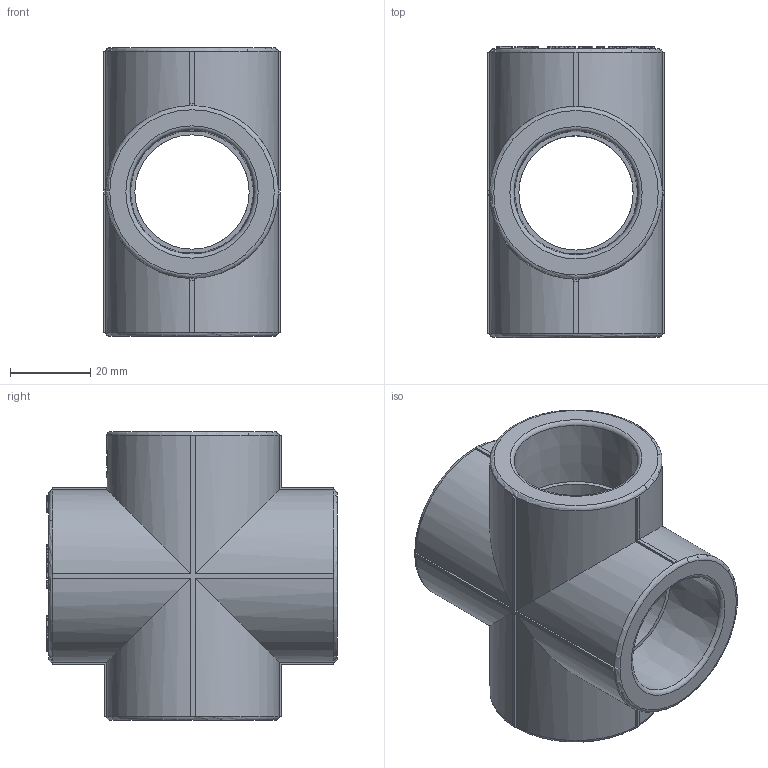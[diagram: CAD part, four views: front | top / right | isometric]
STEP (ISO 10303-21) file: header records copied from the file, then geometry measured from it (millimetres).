
FILE_DESCRIPTION(('STEP AP203'), '1');
FILE_NAME('ÂÐ.752261.006 - VTp.741.0.032', '', ('UNSPECIFIED'), ('UNSPECIFIED'), 'C3D Converter', 'C3D Toolkit', '');
FILE_SCHEMA(('CONFIG_CONTROL_DESIGN'));
Length unit declared in the file: millimetre
Products named in the file (1): ВР.752261.006
Bounding box: 44 x 72.5 x 72 mm (x, y, z)
Volume: 71794.7 mm3; surface area: 25560.3 mm2
Topology: 1 solids, 1 shells, 1088 faces, 3041 edges, 2011 vertices
Faces by surface type: extrusion 623, plane 408, cylinder 45, torus 8, cone 4
Full cylindrical faces by diameter (mm): 8 x1, 28.5 x4
Entity records: 40042 total; most frequent: CARTESIAN_POINT 15414, ORIENTED_EDGE 6048, DIRECTION 3084, EDGE_CURVE 3024, VECTOR 2042, VERTEX_POINT 2011, B_SPLINE_CURVE_WITH_KNOTS 1870, LINE 1419
